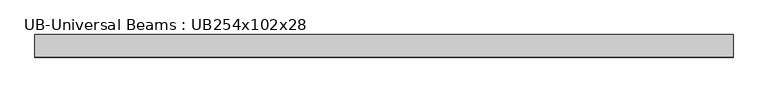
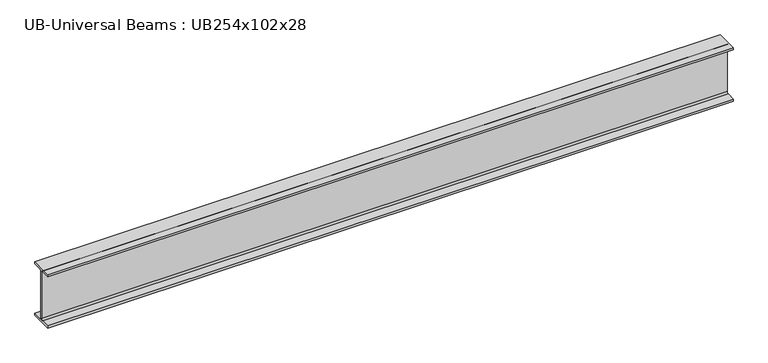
"""IFC4 building model written with IfcOpenShell, lengths in millimetres: beam geometry, UB-Universal Beams : UB254x102x28."""

import ifcopenshell
import ifcopenshell.guid

model = None  # the IFC model being written
_history = None  # IfcOwnerHistory: only IFC2X3 demands one
_inside = {}  # id of a spatial element -> (the spatial element, [elements in it])
_under = {}  # id of a project, library or spatial element -> (it, [spatial elements below it])
_declared = {}  # id of a project -> (the project, [libraries it declares])
_typed = {}  # id of a type object -> (the type object, [elements of that type])
_made_of = {}  # id of a material, layer set ... -> (it, [elements and type objects made of it])


def new_model(schema):
    """Start an empty IFC model of exactly this schema.

    Asked for "IFC4X3", IfcOpenShell would pick the latest addendum, in which some entities
    have other attributes; the version numbers below select the first issue.
    IFC2X3 requires an IfcOwnerHistory on every rooted entity: one is made here for all.
    """
    global model, _history
    if schema == "IFC4X3":
        model = ifcopenshell.file(schema_version=(4, 3, 0, 0))
    else:
        model = ifcopenshell.file(schema=schema)
    _inside.clear()
    _under.clear()
    _declared.clear()
    _typed.clear()
    _made_of.clear()
    _history = None
    if model.schema == "IFC2X3":
        org = make("IfcOrganization", Name="unknown")
        user = make(
            "IfcPersonAndOrganization",
            ThePerson=make("IfcPerson", FamilyName="unknown"),
            TheOrganization=org,
        )
        app = make(
            "IfcApplication",
            ApplicationDeveloper=org,
            Version="unknown",
            ApplicationFullName="unknown",
            ApplicationIdentifier="unknown",
        )
        _history = make(
            "IfcOwnerHistory",
            OwningUser=user,
            OwningApplication=app,
            ChangeAction="ADDED",
            CreationDate=0,
        )
    return model


def make(cls, **values):
    """One entity of the class cls with the attributes given. An attribute that is None is left unset."""
    return model.create_entity(
        cls, **{name: value for name, value in values.items() if value is not None}
    )


def rooted(cls, **values):
    """An entity with a GlobalId (a new one), such as an element, a storey or a relation."""
    return make(cls, GlobalId=ifcopenshell.guid.new(), OwnerHistory=_history, **values)


def si_unit(unit_type, name, prefix=None):
    """IfcSIUnit, for example si_unit("LENGTHUNIT", "METRE", prefix="MILLI")."""
    return make("IfcSIUnit", UnitType=unit_type, Prefix=prefix, Name=name)


def assignment(units):
    """IfcUnitAssignment: the units of a project."""
    return None if units is None else make("IfcUnitAssignment", Units=units)


def point(xyz):
    """IfcCartesianPoint."""
    return None if xyz is None else make("IfcCartesianPoint", Coordinates=xyz)


def direction(xyz):
    """IfcDirection."""
    return None if xyz is None else make("IfcDirection", DirectionRatios=xyz)


def frame(location, z_axis=None, x_axis=None):
    """IfcAxis2Placement3D, a coordinate frame: its origin and axes. An axis left out is left unset."""
    return make(
        "IfcAxis2Placement3D",
        Location=point(location),
        Axis=direction(z_axis),
        RefDirection=direction(x_axis),
    )


def frame_2d(location, x_axis=None):
    """IfcAxis2Placement2D, a coordinate frame in the plane: its origin and x axis."""
    return make(
        "IfcAxis2Placement2D", Location=point(location), RefDirection=direction(x_axis)
    )


def origin():
    """The frame at (0, 0, 0) with its axes left unset."""
    return frame((0.0, 0.0, 0.0))


def place(relative_to, where):
    """IfcLocalPlacement: puts the frame where relative to a parent placement (None: the world)."""
    return make(
        "IfcLocalPlacement", PlacementRelTo=relative_to, RelativePlacement=where
    )


def context(
    kind, dimensions, precision=None, world=None, true_north=None, identifier=None
):
    """IfcGeometricRepresentationContext, for example the 3D "Model" context."""
    return make(
        "IfcGeometricRepresentationContext",
        ContextIdentifier=identifier,
        ContextType=kind,
        CoordinateSpaceDimension=dimensions,
        Precision=precision,
        WorldCoordinateSystem=world,
        TrueNorth=true_north,
    )


def project(units=None, contexts=None):
    """IfcProject with its units and contexts."""
    return rooted(
        "IfcProject",
        Name="project",
        RepresentationContexts=contexts,
        UnitsInContext=assignment(units),
    )


def spatial(cls, under=None, at=None, **own):
    """A site, building, storey or space (cls), placed at a placement, below another one or the project."""
    s = rooted(cls, ObjectPlacement=at, **own)
    if under is not None:
        _under.setdefault(under.id(), (under, []))[1].append(s)
    return s


def polyline(points):
    """IfcPolyline through the points."""
    return make("IfcPolyline", Points=[point(p) for p in points])


def circle_curve(where, radius):
    """IfcCircle in the frame where."""
    return make("IfcCircle", Position=where, Radius=radius)


def trimmed(basis, trim1, trim2, sense, master):
    """IfcTrimmedCurve: the piece of a basis curve between two trims."""
    return make(
        "IfcTrimmedCurve",
        BasisCurve=basis,
        Trim1=trim1,
        Trim2=trim2,
        SenseAgreement=sense,
        MasterRepresentation=master,
    )


def segment(curve, same_sense, transition):
    """IfcCompositeCurveSegment."""
    return make(
        "IfcCompositeCurveSegment",
        Transition=transition,
        SameSense=same_sense,
        ParentCurve=curve,
    )


def composite_curve(segments, self_intersect=None):
    """IfcCompositeCurve: segments joined end to end."""
    return make("IfcCompositeCurve", Segments=segments, SelfIntersect=self_intersect)


def outline(outer, holes=None, kind="AREA"):
    """IfcArbitraryClosedProfileDef: a profile drawn as a closed curve; with holes, ...WithVoids."""
    if holes is None:
        return make("IfcArbitraryClosedProfileDef", ProfileType=kind, OuterCurve=outer)
    return make(
        "IfcArbitraryProfileDefWithVoids",
        ProfileType=kind,
        OuterCurve=outer,
        InnerCurves=holes,
    )


def extrude(swept, where, along, depth):
    """IfcExtrudedAreaSolid: the profile swept, set in the frame where, extruded along a direction by depth."""
    return make(
        "IfcExtrudedAreaSolid",
        SweptArea=swept,
        Position=where,
        ExtrudedDirection=direction(along),
        Depth=depth,
    )


def shape(context_of_items, identifier, shape_type, items):
    """IfcShapeRepresentation: the items that make up one representation, for example the "Body"."""
    return make(
        "IfcShapeRepresentation",
        ContextOfItems=context_of_items,
        RepresentationIdentifier=identifier,
        RepresentationType=shape_type,
        Items=items,
    )


def source(mapping_origin, context_of_items, identifier, shape_type, items):
    """IfcRepresentationMap: a shape defined once, which mapped items show again and again."""
    return make(
        "IfcRepresentationMap",
        MappingOrigin=mapping_origin,
        MappedRepresentation=shape(context_of_items, identifier, shape_type, items),
    )


def transform(
    local_origin,
    x_axis=None,
    y_axis=None,
    z_axis=None,
    scale=None,
    scale2=None,
    scale3=None,
    uniform=True,
):
    """IfcCartesianTransformationOperator3D, or its non-uniform kind. x_axis, y_axis, z_axis: its Axis1, 2, 3."""
    if uniform:
        return make(
            "IfcCartesianTransformationOperator3D",
            Axis1=direction(x_axis),
            Axis2=direction(y_axis),
            LocalOrigin=point(local_origin),
            Scale=scale,
            Axis3=direction(z_axis),
        )
    return make(
        "IfcCartesianTransformationOperator3DnonUniform",
        Axis1=direction(x_axis),
        Axis2=direction(y_axis),
        LocalOrigin=point(local_origin),
        Scale=scale,
        Axis3=direction(z_axis),
        Scale2=scale2,
        Scale3=scale3,
    )


def mapped(mapping_source, mapping_target):
    """IfcMappedItem: shows the shape of a source again, moved by a transform."""
    return make(
        "IfcMappedItem", MappingSource=mapping_source, MappingTarget=mapping_target
    )


def made_of(thing, what):
    """Note that an element or type object is made of a material, layer set ...; save() writes the relation."""
    if what is not None:
        _made_of.setdefault(what.id(), (what, []))[1].append(thing)
    return thing


def element(
    cls,
    number,
    at=None,
    inside=None,
    cuts=None,
    type_object=None,
    material=None,
    context=None,
    identifier="Body",
    shape_type=None,
    held_by="IfcProductDefinitionShape",
    body=None,
    shapes=None,
    **own,
):
    """One element of the class cls, such as IfcWall. Its Tag is "e" and its number.

    at: its placement. inside: the storey or other place that contains it. cuts: it is an
    opening in that element (IfcRelVoidsElement). A single representation is given by context,
    identifier, shape_type and body (its items); several are given by shapes. held_by: the class
    of the entity that holds the representations. save() writes the other relations.
    """
    e = rooted(cls, Tag="e%d" % number, ObjectPlacement=at, **own)
    if body is not None:
        shapes = [shape(context, identifier, shape_type, body)]
    if shapes is not None:
        e.Representation = make(held_by, Representations=shapes)
    if inside is not None:
        _inside.setdefault(inside.id(), (inside, []))[1].append(e)
    if cuts is not None:
        rooted(
            "IfcRelVoidsElement", RelatingBuildingElement=cuts, RelatedOpeningElement=e
        )
    if type_object is not None:
        _typed.setdefault(type_object.id(), (type_object, []))[1].append(e)
    return made_of(e, material)


def aggregate(whole, parts):
    """IfcRelAggregates: a whole, such as a stair, and the parts it consists of."""
    return rooted("IfcRelAggregates", RelatingObject=whole, RelatedObjects=parts)


def save(model, path):
    """Write the relations noted so far, then the file.

    IfcRelAggregates (storeys below a building ...), IfcRelContainedInSpatialStructure (elements
    in a storey), IfcRelDefinesByType, IfcRelAssociatesMaterial and IfcRelDeclares: one each for
    every whole, place, type object, material and project.
    """
    for whole, parts in _under.values():
        aggregate(whole, parts)
    for where, things in _inside.values():
        rooted(
            "IfcRelContainedInSpatialStructure",
            RelatedElements=things,
            RelatingStructure=where,
        )
    for kind, things in _typed.values():
        rooted("IfcRelDefinesByType", RelatedObjects=things, RelatingType=kind)
    for what, things in _made_of.values():
        rooted("IfcRelAssociatesMaterial", RelatedObjects=things, RelatingMaterial=what)
    for by, libraries in _declared.values():
        rooted("IfcRelDeclares", RelatingContext=by, RelatedDefinitions=libraries)
    model.write(path)


def ub_universal_beams_ub254x102x28_ec8d9681(model_context):
    return source(origin(), model_context, "Body", "SweptSolid", [
        extrude(outline(composite_curve([segment(polyline([(51.1, -120.2), (51.1, -130.2), (-51.1, -130.2), (-51.1, -120.2), (-10.75, -120.2)]), True, "CONTINUOUS"), segment(trimmed(circle_curve(frame_2d((-10.75, -112.6)), 7.6), [point((-10.75, -120.2))], [point((-3.15, -112.6))], True, "CARTESIAN"), True, "CONTINUOUS"), segment(polyline([(-3.15, -112.6), (-3.15, 112.6)]), True, "CONTINUOUS"), segment(trimmed(circle_curve(frame_2d((-10.75, 112.6)), 7.6), [point((-3.15, 112.6))], [point((-10.75, 120.2))], True, "CARTESIAN"), True, "CONTINUOUS"), segment(polyline([(-10.75, 120.2), (-51.1, 120.2), (-51.1, 130.2), (51.1, 130.2), (51.1, 120.2), (10.75, 120.2)]), True, "CONTINUOUS"), segment(trimmed(circle_curve(frame_2d((10.75, 112.6)), 7.6), [point((10.75, 120.2))], [point((3.15, 112.6))], True, "CARTESIAN"), True, "CONTINUOUS"), segment(polyline([(3.15, 112.6), (3.15, -112.6)]), True, "CONTINUOUS"), segment(trimmed(circle_curve(frame_2d((10.75, -112.6)), 7.6), [point((3.15, -112.6))], [point((10.75, -120.2))], True, "CARTESIAN"), True, "CONTINUOUS"), segment(polyline([(10.75, -120.2), (51.1, -120.2)]), True, "CONTINUOUS")], self_intersect=False)), frame((-1612.85, 0.0, 0.0), z_axis=(1.0, 0.0, 0.0), x_axis=(0.0, 1.0, 0.0)), (0.0, 0.0, 1.0), 3158.7),
    ])


if __name__ == "__main__":
    model = new_model("IFC4")
    model_context = context("Model", 3, world=origin())
    ifc_project = project(units=[si_unit("LENGTHUNIT", "METRE", prefix="MILLI")], contexts=[model_context])
    site = spatial("IfcSite", under=ifc_project)
    building = spatial("IfcBuilding", under=site)
    placement = place(None, origin())
    ub_universal_beams_ub254x102x28_shape = ub_universal_beams_ub254x102x28_ec8d9681(model_context)
    element("IfcBeam", 1, ObjectType="UB-Universal Beams : UB254x102x28", at=placement, inside=building, context=model_context, shape_type="MappedRepresentation", body=[
        mapped(ub_universal_beams_ub254x102x28_shape, transform((0.0, 0.0, 0.0), x_axis=(1.0, 0.0, 0.0), y_axis=(0.0, 1.0, 0.0), z_axis=(0.0, 0.0, 1.0))),
    ])
    save(model, "model.ifc")
